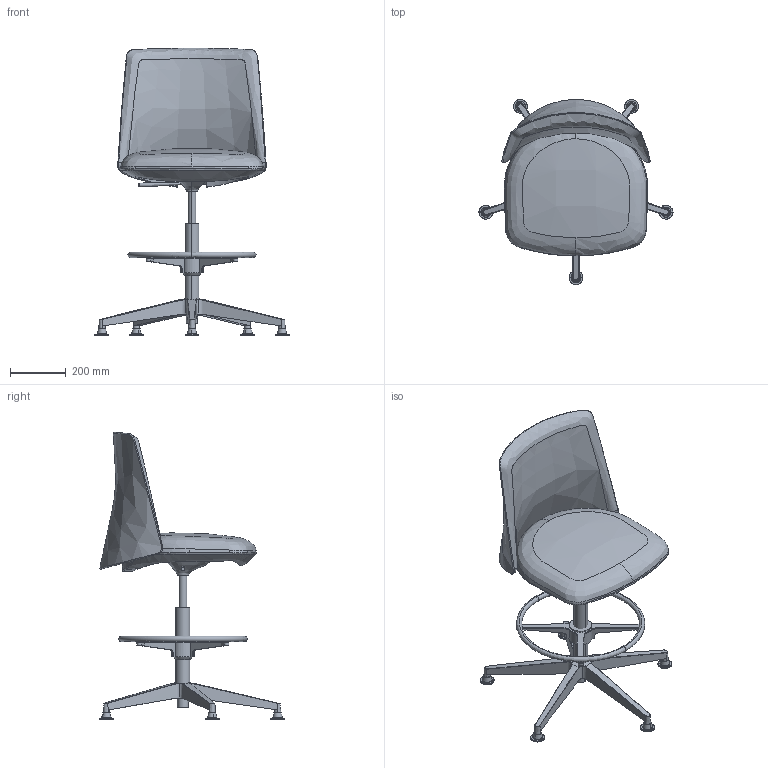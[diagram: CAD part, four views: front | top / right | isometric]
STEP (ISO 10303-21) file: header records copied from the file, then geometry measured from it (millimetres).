
FILE_DESCRIPTION(/* description */ (''),/* implementation_level */ '2;1');
FILE_NAME(/* name */ 'MELODY~1',/* time_stamp */ '2017-01-23T21:54:19+01:00',/* author */ (''),/* organization */ (''),/* preprocessor_version */ 'ST-DEVELOPER v15',/* originating_system */ '',/* authorisation */ '');
FILE_SCHEMA (('CONFIG_CONTROL_DESIGN'));
Length unit declared in the file: millimetre
Products named in the file (1): Document
Bounding box: 694.78 x 663.25 x 1029.45 mm (x, y, z)
Volume: 28189025.2 mm3; surface area: 1822001.4 mm2
Topology: 6 solids, 24 shells, 308 faces, 757 edges, 463 vertices
Faces by surface type: bspline 234, plane 74
Entity records: 19119 total; most frequent: CARTESIAN_POINT 14698, ORIENTED_EDGE 1409, EDGE_CURVE 749, VERTEX_POINT 457, B_SPLINE_CURVE_WITH_KNOTS 431, EDGE_LOOP 310, ADVANCED_FACE 308, FACE_OUTER_BOUND 308
